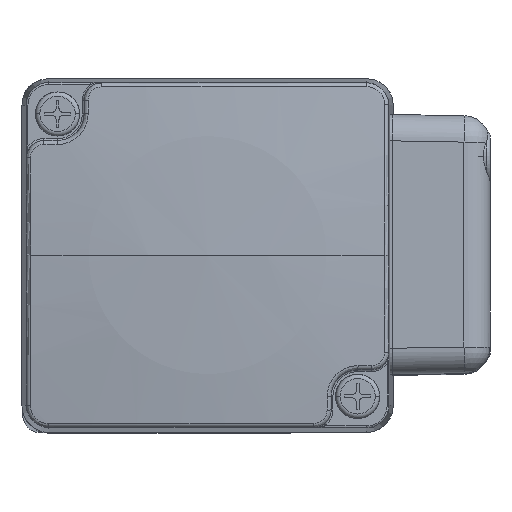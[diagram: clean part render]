
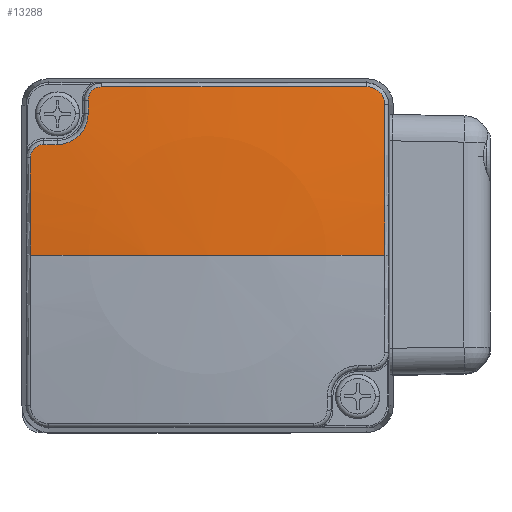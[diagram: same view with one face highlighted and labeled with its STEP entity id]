
A CAD part, top view. The second image highlights one B-rep face of the part: STEP entity #13288.
In plain terms, the highlighted spherical face has radius 183.17 mm.
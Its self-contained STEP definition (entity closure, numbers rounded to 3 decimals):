
#11029=CARTESIAN_POINT('',(0.,0.,-153.37));
#11030=DIRECTION('',(0.,-1.,0.));
#11031=DIRECTION('',(0.,0.,1.));
#11032=AXIS2_PLACEMENT_3D('',#11029,#11030,#11031);
#11450=CARTESIAN_POINT('',(13.537,0.,-153.37));
#11451=DIRECTION('',(1.,0.,0.));
#11452=DIRECTION('',(0.,-0.088,0.996));
#11453=AXIS2_PLACEMENT_3D('',#11450,#11451,#11452);
#11455=CARTESIAN_POINT('',(13.537,-17.56,
28.453));
#11456=CARTESIAN_POINT('',(13.537,-17.953,
28.415));
#11457=CARTESIAN_POINT('',(13.213,-18.738,
28.361));
#11458=CARTESIAN_POINT('',(12.426,-19.065,
28.381));
#11459=CARTESIAN_POINT('',(12.033,-19.065,
28.407));
#11461=CARTESIAN_POINT('',(0.,-22.231,-152.982));
#11462=DIRECTION('',(0.,-1.,0.017));
#11463=DIRECTION('',(0.066,0.017,0.998));
#11464=AXIS2_PLACEMENT_3D('',#11461,#11462,#11463);
#11466=CARTESIAN_POINT('',(-18.049,-19.073,
27.908));
#11467=CARTESIAN_POINT('',(-18.578,-19.074,
27.855));
#11468=CARTESIAN_POINT('',(-19.639,-18.637,
27.791));
#11469=CARTESIAN_POINT('',(-20.077,-17.576,
27.847));
#11470=CARTESIAN_POINT('',(-20.076,-17.047,
27.897));
#11472=CARTESIAN_POINT('',(-23.233,0.,-152.964));
#11473=DIRECTION('',(-1.,0.,0.017));
#11474=DIRECTION('',(0.017,-0.094,0.995));
#11475=AXIS2_PLACEMENT_3D('',#11472,#11473,#11474);
#11477=CARTESIAN_POINT('',(0.,0.,-153.37));
#11478=DIRECTION('',(0.,1.,0.));
#11479=DIRECTION('',(0.,0.,1.));
#11480=AXIS2_PLACEMENT_3D('',#11477,#11478,#11479);
#11482=CARTESIAN_POINT('',(23.233,0.,-152.964));
#11483=DIRECTION('',(1.,0.,0.017));
#11484=DIRECTION('',(-0.017,0.,1.));
#11485=AXIS2_PLACEMENT_3D('',#11482,#11483,#11484);
#11487=CARTESIAN_POINT('',(20.068,-11.03,
28.363));
#11488=CARTESIAN_POINT('',(20.069,-11.424,
28.339));
#11489=CARTESIAN_POINT('',(19.741,-12.211,
28.325));
#11490=CARTESIAN_POINT('',(18.956,-12.534,
28.385));
#11491=CARTESIAN_POINT('',(18.563,-12.534,
28.425));
#11493=CARTESIAN_POINT('',(0.,-12.534,-153.37));
#11494=DIRECTION('',(0.,-1.,0.));
#11495=DIRECTION('',(0.102,0.,0.995));
#11496=AXIS2_PLACEMENT_3D('',#11493,#11494,#11495);
#11498=CARTESIAN_POINT('',(17.047,-12.534,
28.574));
#11499=CARTESIAN_POINT('',(16.829,-12.534,
28.594));
#11500=CARTESIAN_POINT('',(16.408,-12.574,
28.63));
#11501=CARTESIAN_POINT('',(15.806,-12.741,
28.672));
#11502=CARTESIAN_POINT('',(15.253,-13.007,
28.7));
#11503=CARTESIAN_POINT('',(14.759,-13.359,
28.715));
#11504=CARTESIAN_POINT('',(14.333,-13.791,
28.717));
#11505=CARTESIAN_POINT('',(13.99,-14.281,
28.706));
#11506=CARTESIAN_POINT('',(13.715,-14.877,
28.679));
#11507=CARTESIAN_POINT('',(13.564,-15.489,
28.639));
#11508=CARTESIAN_POINT('',(13.537,-15.862,
28.609));
#11509=CARTESIAN_POINT('',(13.537,-16.044,
28.593));
#12425=CARTESIAN_POINT('',(20.062,0.,28.698));
#12426=VERTEX_POINT('',#12425);
#12427=CARTESIAN_POINT('',(0.,0.,29.8));
#12428=VERTEX_POINT('',#12427);
#12429=CARTESIAN_POINT('',(-20.062,0.,28.698));
#12430=VERTEX_POINT('',#12429);
#12511=VERTEX_POINT('',#11466);
#12512=VERTEX_POINT('',#11470);
#12513=CARTESIAN_POINT('',(13.537,-16.044,
28.593));
#12514=CARTESIAN_POINT('',(13.537,-17.56,
28.453));
#12515=VERTEX_POINT('',#12513);
#12516=VERTEX_POINT('',#12514);
#12517=VERTEX_POINT('',#11459);
#12518=CARTESIAN_POINT('',(20.068,-11.03,
28.363));
#12519=VERTEX_POINT('',#12518);
#12520=VERTEX_POINT('',#11491);
#12521=CARTESIAN_POINT('',(17.047,-12.534,
28.574));
#12522=VERTEX_POINT('',#12521);
#13262=CARTESIAN_POINT('',(0.,0.,-153.37));
#13263=DIRECTION('',(0.,0.,-1.));
#13264=DIRECTION('',(1.,0.,0.));
#13265=AXIS2_PLACEMENT_3D('',#13262,#13263,#13264);
#13266=SPHERICAL_SURFACE('',#13265,183.17);
#13268=ORIENTED_EDGE('',*,*,#13267,.T.);
#13270=ORIENTED_EDGE('',*,*,#13269,.T.);
#13272=ORIENTED_EDGE('',*,*,#13271,.T.);
#13273=ORIENTED_EDGE('',*,*,#13252,.T.);
#13275=ORIENTED_EDGE('',*,*,#13274,.T.);
#13276=ORIENTED_EDGE('',*,*,#12754,.F.);
#13277=ORIENTED_EDGE('',*,*,#12752,.T.);
#13279=ORIENTED_EDGE('',*,*,#13278,.T.);
#13281=ORIENTED_EDGE('',*,*,#13280,.T.);
#13283=ORIENTED_EDGE('',*,*,#13282,.T.);
#13285=ORIENTED_EDGE('',*,*,#13284,.T.);
#13286=EDGE_LOOP('',(#13268,#13270,#13272,#13273,#13275,#13276,#13277,#13279,
#13281,#13283,#13285));
#13287=FACE_OUTER_BOUND('',#13286,.F.);
#11033=CIRCLE('',#11032,183.17);
#11454=CIRCLE('',#11453,182.669);
#11460=B_SPLINE_CURVE_WITH_KNOTS('',3,(#11455,#11456,#11457,#11458,#11459),
.UNSPECIFIED.,.F.,.F.,(4,1,4),(0.,0.5,1.),.UNSPECIFIED.);
#11465=CIRCLE('',#11464,181.816);
#11471=B_SPLINE_CURVE_WITH_KNOTS('',3,(#11466,#11467,#11468,#11469,#11470),
.UNSPECIFIED.,.F.,.F.,(4,1,4),(0.,0.5,1.),.UNSPECIFIED.);
#11476=CIRCLE('',#11475,181.69);
#11481=CIRCLE('',#11480,183.17);
#11486=CIRCLE('',#11485,181.69);
#11492=B_SPLINE_CURVE_WITH_KNOTS('',3,(#11487,#11488,#11489,#11490,#11491),
.UNSPECIFIED.,.F.,.F.,(4,1,4),(0.,0.5,1.),.UNSPECIFIED.);
#11497=CIRCLE('',#11496,182.741);
#11510=B_SPLINE_CURVE_WITH_KNOTS('',3,(#11498,#11499,#11500,#11501,#11502,
#11503,#11504,#11505,#11506,#11507,#11508,#11509),.UNSPECIFIED.,.F.,.F.,(4,1,1,
1,1,1,1,1,1,4),(0.,0.111,0.222,0.333,
0.444,0.556,0.667,0.778,
0.889,1.),.UNSPECIFIED.);
#12752=EDGE_CURVE('',#12428,#12426,#11481,.T.);
#12754=EDGE_CURVE('',#12428,#12430,#11033,.T.);
#13252=EDGE_CURVE('',#12511,#12512,#11471,.T.);
#13267=EDGE_CURVE('',#12515,#12516,#11454,.T.);
#13269=EDGE_CURVE('',#12516,#12517,#11460,.T.);
#13271=EDGE_CURVE('',#12517,#12511,#11465,.T.);
#13274=EDGE_CURVE('',#12512,#12430,#11476,.T.);
#13278=EDGE_CURVE('',#12426,#12519,#11486,.T.);
#13280=EDGE_CURVE('',#12519,#12520,#11492,.T.);
#13282=EDGE_CURVE('',#12520,#12522,#11497,.T.);
#13284=EDGE_CURVE('',#12522,#12515,#11510,.T.);
#13288=ADVANCED_FACE('',(#13287),#13266,.T.);
